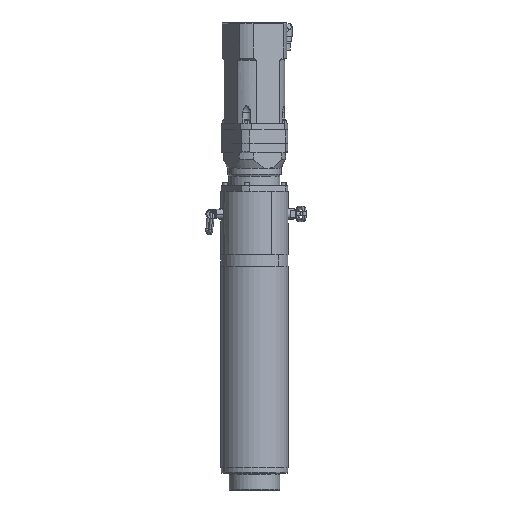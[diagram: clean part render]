
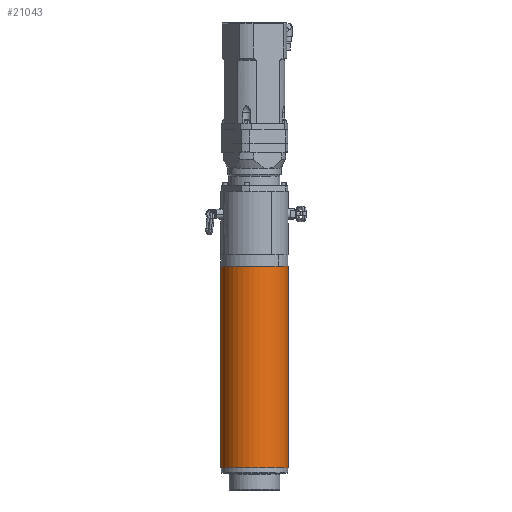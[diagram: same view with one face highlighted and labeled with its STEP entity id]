
A CAD part, front view. The second image highlights one B-rep face of the part: STEP entity #21043.
In plain terms, the highlighted cylindrical face has radius 120 mm (diameter 240 mm), a partial arc.
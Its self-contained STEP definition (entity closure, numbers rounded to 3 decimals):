
#2084 = DIRECTION ( 'NONE',  ( 0., 0., -1. ) ) ;
#2555 = CYLINDRICAL_SURFACE ( 'NONE', #29580, 120. ) ;
#2974 = VERTEX_POINT ( 'NONE', #52262 ) ;
#4315 = LINE ( 'NONE', #8914, #7198 ) ;
#4948 = AXIS2_PLACEMENT_3D ( 'NONE', #14493, #23332, #42129 ) ;
#5899 = ORIENTED_EDGE ( 'NONE', *, *, #37799, .F. ) ;
#7198 = VECTOR ( 'NONE', #36206, 1000. ) ;
#8914 = CARTESIAN_POINT ( 'NONE',  ( 120., 0., 0. ) ) ;
#9165 = VERTEX_POINT ( 'NONE', #11181 ) ;
#11181 = CARTESIAN_POINT ( 'NONE',  ( 120., 0., 736.5 ) ) ;
#13089 = ORIENTED_EDGE ( 'NONE', *, *, #19124, .T. ) ;
#13534 = DIRECTION ( 'NONE',  ( -1., 0., 0. ) ) ;
#14493 = CARTESIAN_POINT ( 'NONE',  ( 0., 0., 20. ) ) ;
#14974 = CARTESIAN_POINT ( 'NONE',  ( -120., 0., 736.5 ) ) ;
#16088 = CARTESIAN_POINT ( 'NONE',  ( -120., 0., 0. ) ) ;
#17813 = AXIS2_PLACEMENT_3D ( 'NONE', #23289, #55551, #13534 ) ;
#17937 = VERTEX_POINT ( 'NONE', #22538 ) ;
#18380 = DIRECTION ( 'NONE',  ( -1., 0., 0. ) ) ;
#19124 = EDGE_CURVE ( 'NONE', #9165, #60464, #20758, .T. ) ;
#20758 = CIRCLE ( 'NONE', #17813, 120. ) ;
#21043 = ADVANCED_FACE ( 'NONE', ( #44538 ), #2555, .T. ) ;
#21480 = CIRCLE ( 'NONE', #4948, 120. ) ;
#22187 = ORIENTED_EDGE ( 'NONE', *, *, #30988, .F. ) ;
#22538 = CARTESIAN_POINT ( 'NONE',  ( -120., 0., 20. ) ) ;
#23289 = CARTESIAN_POINT ( 'NONE',  ( 0., 0., 736.5 ) ) ;
#23332 = DIRECTION ( 'NONE',  ( 0., 0., -1. ) ) ;
#29580 = AXIS2_PLACEMENT_3D ( 'NONE', #35925, #59178, #18380 ) ;
#30988 = EDGE_CURVE ( 'NONE', #2974, #17937, #21480, .T. ) ;
#34711 = EDGE_LOOP ( 'NONE', ( #5899, #13089, #58055, #22187 ) ) ;
#35925 = CARTESIAN_POINT ( 'NONE',  ( 0., 0., 0. ) ) ;
#36206 = DIRECTION ( 'NONE',  ( 0., 0., -1. ) ) ;
#37799 = EDGE_CURVE ( 'NONE', #9165, #2974, #4315, .T. ) ;
#39933 = VECTOR ( 'NONE', #2084, 1000. ) ;
#42010 = EDGE_CURVE ( 'NONE', #60464, #17937, #54417, .T. ) ;
#42129 = DIRECTION ( 'NONE',  ( -1., 0., 0. ) ) ;
#44538 = FACE_OUTER_BOUND ( 'NONE', #34711, .T. ) ;
#52262 = CARTESIAN_POINT ( 'NONE',  ( 120., 0., 20. ) ) ;
#54417 = LINE ( 'NONE', #16088, #39933 ) ;
#55551 = DIRECTION ( 'NONE',  ( 0., 0., -1. ) ) ;
#58055 = ORIENTED_EDGE ( 'NONE', *, *, #42010, .T. ) ;
#59178 = DIRECTION ( 'NONE',  ( 0., 0., -1. ) ) ;
#60464 = VERTEX_POINT ( 'NONE', #14974 ) ;
